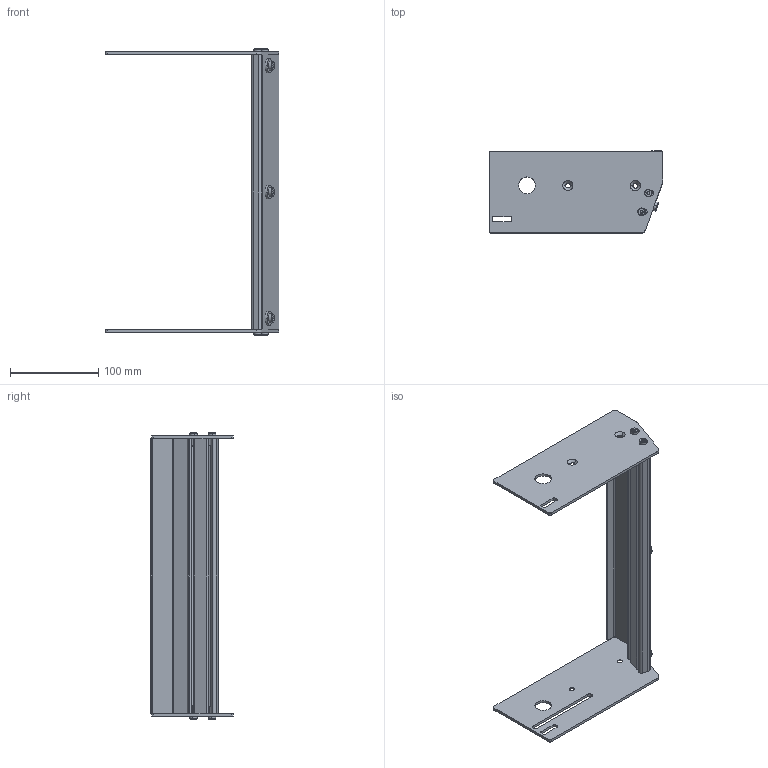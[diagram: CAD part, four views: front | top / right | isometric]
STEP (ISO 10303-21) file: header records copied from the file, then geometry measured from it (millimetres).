
FILE_DESCRIPTION((''),'2;1');
FILE_NAME('351199-12_ASM','2023-03-15T',('jenni.wallner'),(''),'PRO/ENGINEER BY PARAMETRIC TECHNOLOGY CORPORATION, 2012420','PRO/ENGINEER BY PARAMETRIC TECHNOLOGY CORPORATION, 2012420','');
FILE_SCHEMA(('CONFIG_CONTROL_DESIGN'));
Length unit declared in the file: inch
Products named in the file (10): 990603M; 9505XXM_950512M; 351203-WW_351203-12; 605279P; 9506XXM_950612M; 351200_DEFAULT_AS_MACHINED_; 351201; 351202-WW_351202-12; ASM0001_ASM; 351199-12_ASM
Assembly tree (18 placements, depth 3):
  351199-12_ASM
    ASM0001_ASM
      990603M  x3
      9505XXM_950512M  x4
      351203-WW_351203-12
      605279P  x3
      9506XXM_950612M  x3
      351200_DEFAULT_AS_MACHINED_
      351201
      351202-WW_351202-12
Bounding box: 196.11 x 93.08 x 323.89 mm (x, y, z)
Volume: 228365.3 mm3; surface area: 180470.3 mm2
Topology: 17 solids, 17 shells, 378 faces, 902 edges, 572 vertices
Faces by surface type: plane 170, cylinder 132, cone 76
Entity records: 7705 total; most frequent: CARTESIAN_POINT 1402, DIRECTION 1383, ORIENTED_EDGE 1206, EDGE_CURVE 603, AXIS2_PLACEMENT_3D 520, VERTEX_POINT 392, VECTOR 343, LINE 343
